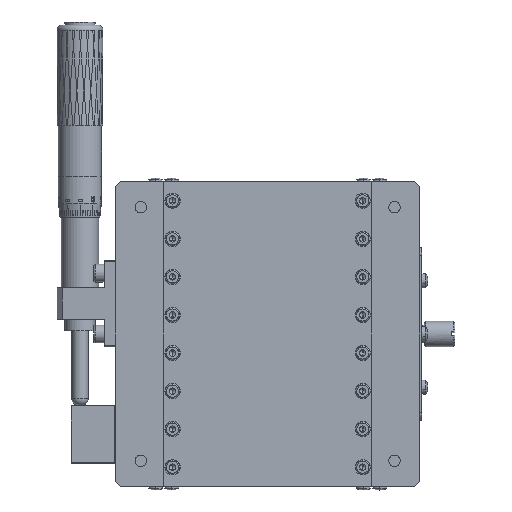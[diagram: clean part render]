
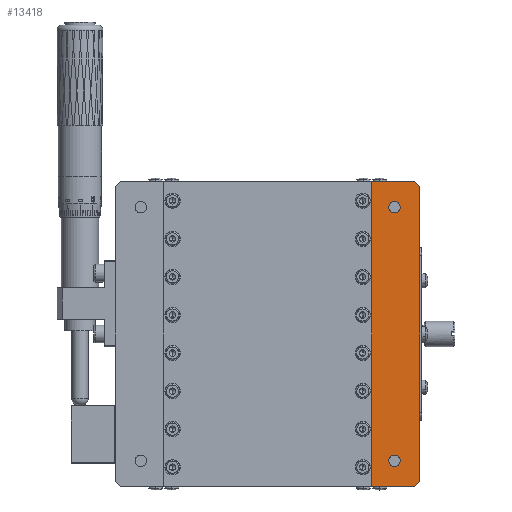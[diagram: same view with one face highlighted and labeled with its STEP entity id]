
A CAD part, front view. The second image highlights one B-rep face of the part: STEP entity #13418.
In plain terms, the highlighted planar face has unit normal (0, -1, 0).
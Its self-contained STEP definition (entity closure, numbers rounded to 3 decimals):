
#1898 = ORIENTED_EDGE ( 'NONE', *, *, #104852, .F. ) ;
#5577 = LINE ( 'NONE', #17372, #76359 ) ;
#8641 = VECTOR ( 'NONE', #39615, 1000. ) ;
#9121 = EDGE_CURVE ( 'NONE', #106790, #31144, #121004, .T. ) ;
#12302 = LINE ( 'NONE', #74669, #14529 ) ;
#13418 = ADVANCED_FACE ( 'NONE', ( #151557, #150741, #162571 ), #85879, .F. ) ;
#14529 = VECTOR ( 'NONE', #152206, 1000. ) ;
#16959 = CARTESIAN_POINT ( 'NONE',  ( 50., 0., 52.25 ) ) ;
#17189 = EDGE_LOOP ( 'NONE', ( #29375, #138672 ) ) ;
#17372 = CARTESIAN_POINT ( 'NONE',  ( 60., 0., 58. ) ) ;
#19869 = DIRECTION ( 'NONE',  ( 0.707, 0., 0.707 ) ) ;
#21369 = EDGE_CURVE ( 'NONE', #31144, #106790, #149872, .T. ) ;
#24019 = CIRCLE ( 'NONE', #118214, 2.25 ) ;
#26170 = VERTEX_POINT ( 'NONE', #87294 ) ;
#27991 = EDGE_CURVE ( 'NONE', #105239, #102182, #24019, .T. ) ;
#28848 = VERTEX_POINT ( 'NONE', #162594 ) ;
#29375 = ORIENTED_EDGE ( 'NONE', *, *, #154941, .T. ) ;
#29898 = CARTESIAN_POINT ( 'NONE',  ( 50., 0., -52.25 ) ) ;
#31144 = VERTEX_POINT ( 'NONE', #16959 ) ;
#32502 = LINE ( 'NONE', #83887, #88999 ) ;
#32919 = VERTEX_POINT ( 'NONE', #34872 ) ;
#33370 = AXIS2_PLACEMENT_3D ( 'NONE', #95246, #59802, #71621 ) ;
#34872 = CARTESIAN_POINT ( 'NONE',  ( 41., 0., -60. ) ) ;
#39615 = DIRECTION ( 'NONE',  ( 0., 0., -1. ) ) ;
#41810 = DIRECTION ( 'NONE',  ( -1., 0., 0. ) ) ;
#43934 = ORIENTED_EDGE ( 'NONE', *, *, #85381, .F. ) ;
#44152 = DIRECTION ( 'NONE',  ( 0., 1., 0. ) ) ;
#52740 = LINE ( 'NONE', #135286, #69872 ) ;
#54168 = ORIENTED_EDGE ( 'NONE', *, *, #9121, .T. ) ;
#55639 = VECTOR ( 'NONE', #148886, 1000. ) ;
#57047 = LINE ( 'NONE', #108449, #55639 ) ;
#57167 = CARTESIAN_POINT ( 'NONE',  ( 60., 0., 58. ) ) ;
#59802 = DIRECTION ( 'NONE',  ( 0., 1., 0. ) ) ;
#60371 = CARTESIAN_POINT ( 'NONE',  ( 41., 0., 60. ) ) ;
#61897 = AXIS2_PLACEMENT_3D ( 'NONE', #66926, #75585, #164099 ) ;
#65695 = LINE ( 'NONE', #154993, #8641 ) ;
#66918 = VERTEX_POINT ( 'NONE', #119934 ) ;
#66926 = CARTESIAN_POINT ( 'NONE',  ( 50., 0., 50. ) ) ;
#67228 = EDGE_LOOP ( 'NONE', ( #124720, #54168 ) ) ;
#69872 = VECTOR ( 'NONE', #41810, 1000. ) ;
#70214 = DIRECTION ( 'NONE',  ( 0., 0., 1. ) ) ;
#71585 = DIRECTION ( 'NONE',  ( 0., 1., 0. ) ) ;
#71621 = DIRECTION ( 'NONE',  ( 0., 0., 1. ) ) ;
#74669 = CARTESIAN_POINT ( 'NONE',  ( 41., 0., -60. ) ) ;
#75585 = DIRECTION ( 'NONE',  ( 0., 1., 0. ) ) ;
#76359 = VECTOR ( 'NONE', #146284, 1000. ) ;
#81524 = VERTEX_POINT ( 'NONE', #60371 ) ;
#83887 = CARTESIAN_POINT ( 'NONE',  ( 58., 0., -60. ) ) ;
#85381 = EDGE_CURVE ( 'NONE', #66918, #32919, #52740, .T. ) ;
#85879 = PLANE ( 'NONE',  #91797 ) ;
#87294 = CARTESIAN_POINT ( 'NONE',  ( 60., 0., -58. ) ) ;
#88999 = VECTOR ( 'NONE', #19869, 1000. ) ;
#91797 = AXIS2_PLACEMENT_3D ( 'NONE', #123002, #71585, #149114 ) ;
#95246 = CARTESIAN_POINT ( 'NONE',  ( 50., 0., -50. ) ) ;
#102182 = VERTEX_POINT ( 'NONE', #127337 ) ;
#103079 = DIRECTION ( 'NONE',  ( 0., 1., 0. ) ) ;
#103646 = EDGE_LOOP ( 'NONE', ( #137169, #109248, #1898, #137962, #43934, #157848 ) ) ;
#104852 = EDGE_CURVE ( 'NONE', #81524, #28848, #57047, .T. ) ;
#105239 = VERTEX_POINT ( 'NONE', #29898 ) ;
#106790 = VERTEX_POINT ( 'NONE', #123222 ) ;
#108157 = CARTESIAN_POINT ( 'NONE',  ( 50., 0., 50. ) ) ;
#108449 = CARTESIAN_POINT ( 'NONE',  ( -60., 0., 60. ) ) ;
#109248 = ORIENTED_EDGE ( 'NONE', *, *, #155909, .T. ) ;
#113452 = EDGE_CURVE ( 'NONE', #66918, #26170, #32502, .T. ) ;
#117407 = DIRECTION ( 'NONE',  ( 0., 0., 1. ) ) ;
#118214 = AXIS2_PLACEMENT_3D ( 'NONE', #127572, #103079, #117407 ) ;
#119934 = CARTESIAN_POINT ( 'NONE',  ( 58., 0., -60. ) ) ;
#121004 = CIRCLE ( 'NONE', #61897, 2.25 ) ;
#123002 = CARTESIAN_POINT ( 'NONE',  ( 0., 0., 0. ) ) ;
#123222 = CARTESIAN_POINT ( 'NONE',  ( 50., 0., 47.75 ) ) ;
#124720 = ORIENTED_EDGE ( 'NONE', *, *, #21369, .T. ) ;
#124791 = CIRCLE ( 'NONE', #33370, 2.25 ) ;
#127337 = CARTESIAN_POINT ( 'NONE',  ( 50., 0., -47.75 ) ) ;
#127572 = CARTESIAN_POINT ( 'NONE',  ( 50., 0., -50. ) ) ;
#130077 = VERTEX_POINT ( 'NONE', #57167 ) ;
#132070 = EDGE_CURVE ( 'NONE', #130077, #26170, #65695, .T. ) ;
#135286 = CARTESIAN_POINT ( 'NONE',  ( -60., 0., -60. ) ) ;
#137169 = ORIENTED_EDGE ( 'NONE', *, *, #132070, .F. ) ;
#137962 = ORIENTED_EDGE ( 'NONE', *, *, #141433, .F. ) ;
#138672 = ORIENTED_EDGE ( 'NONE', *, *, #27991, .T. ) ;
#141433 = EDGE_CURVE ( 'NONE', #32919, #81524, #12302, .T. ) ;
#146284 = DIRECTION ( 'NONE',  ( -0.707, 0., 0.707 ) ) ;
#148886 = DIRECTION ( 'NONE',  ( 1., 0., 0. ) ) ;
#149114 = DIRECTION ( 'NONE',  ( 0., 0., 1. ) ) ;
#149872 = CIRCLE ( 'NONE', #152476, 2.25 ) ;
#150741 = FACE_BOUND ( 'NONE', #67228, .T. ) ;
#151557 = FACE_BOUND ( 'NONE', #17189, .T. ) ;
#152206 = DIRECTION ( 'NONE',  ( 0., 0., 1. ) ) ;
#152476 = AXIS2_PLACEMENT_3D ( 'NONE', #108157, #44152, #70214 ) ;
#154941 = EDGE_CURVE ( 'NONE', #102182, #105239, #124791, .T. ) ;
#154993 = CARTESIAN_POINT ( 'NONE',  ( 60., 0., -60. ) ) ;
#155909 = EDGE_CURVE ( 'NONE', #130077, #28848, #5577, .T. ) ;
#157848 = ORIENTED_EDGE ( 'NONE', *, *, #113452, .T. ) ;
#162571 = FACE_OUTER_BOUND ( 'NONE', #103646, .T. ) ;
#162594 = CARTESIAN_POINT ( 'NONE',  ( 58., 0., 60. ) ) ;
#164099 = DIRECTION ( 'NONE',  ( 0., 0., 1. ) ) ;
